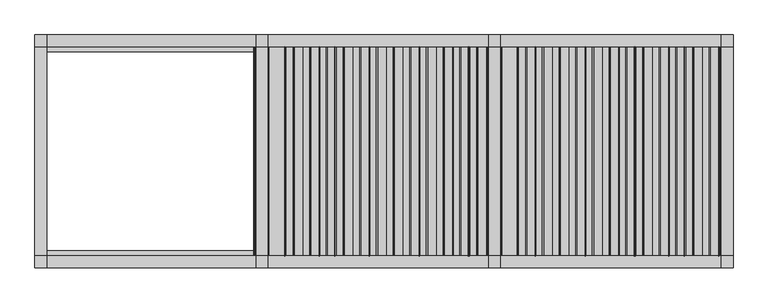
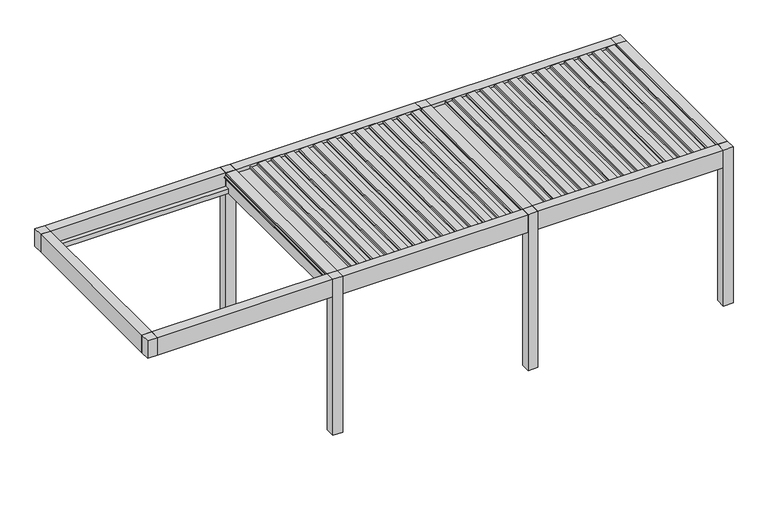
"""IFC4 building model written with IfcOpenShell, lengths in millimetres: proxy geometry, Renson_Amani_Patio_Cover : Renson_Amani_Patio_Cover."""

import ifcopenshell
import ifcopenshell.guid

model = None  # the IFC model being written
_history = None  # IfcOwnerHistory: only IFC2X3 demands one
_inside = {}  # id of a spatial element -> (the spatial element, [elements in it])
_under = {}  # id of a project, library or spatial element -> (it, [spatial elements below it])
_declared = {}  # id of a project -> (the project, [libraries it declares])
_typed = {}  # id of a type object -> (the type object, [elements of that type])
_made_of = {}  # id of a material, layer set ... -> (it, [elements and type objects made of it])


def new_model(schema):
    """Start an empty IFC model of exactly this schema.

    Asked for "IFC4X3", IfcOpenShell would pick the latest addendum, in which some entities
    have other attributes; the version numbers below select the first issue.
    IFC2X3 requires an IfcOwnerHistory on every rooted entity: one is made here for all.
    """
    global model, _history
    if schema == "IFC4X3":
        model = ifcopenshell.file(schema_version=(4, 3, 0, 0))
    else:
        model = ifcopenshell.file(schema=schema)
    _inside.clear()
    _under.clear()
    _declared.clear()
    _typed.clear()
    _made_of.clear()
    _history = None
    if model.schema == "IFC2X3":
        org = make("IfcOrganization", Name="unknown")
        user = make(
            "IfcPersonAndOrganization",
            ThePerson=make("IfcPerson", FamilyName="unknown"),
            TheOrganization=org,
        )
        app = make(
            "IfcApplication",
            ApplicationDeveloper=org,
            Version="unknown",
            ApplicationFullName="unknown",
            ApplicationIdentifier="unknown",
        )
        _history = make(
            "IfcOwnerHistory",
            OwningUser=user,
            OwningApplication=app,
            ChangeAction="ADDED",
            CreationDate=0,
        )
    return model


def make(cls, **values):
    """One entity of the class cls with the attributes given. An attribute that is None is left unset."""
    return model.create_entity(
        cls, **{name: value for name, value in values.items() if value is not None}
    )


def rooted(cls, **values):
    """An entity with a GlobalId (a new one), such as an element, a storey or a relation."""
    return make(cls, GlobalId=ifcopenshell.guid.new(), OwnerHistory=_history, **values)


def si_unit(unit_type, name, prefix=None):
    """IfcSIUnit, for example si_unit("LENGTHUNIT", "METRE", prefix="MILLI")."""
    return make("IfcSIUnit", UnitType=unit_type, Prefix=prefix, Name=name)


def assignment(units):
    """IfcUnitAssignment: the units of a project."""
    return None if units is None else make("IfcUnitAssignment", Units=units)


def point(xyz):
    """IfcCartesianPoint."""
    return None if xyz is None else make("IfcCartesianPoint", Coordinates=xyz)


def direction(xyz):
    """IfcDirection."""
    return None if xyz is None else make("IfcDirection", DirectionRatios=xyz)


def frame(location, z_axis=None, x_axis=None):
    """IfcAxis2Placement3D, a coordinate frame: its origin and axes. An axis left out is left unset."""
    return make(
        "IfcAxis2Placement3D",
        Location=point(location),
        Axis=direction(z_axis),
        RefDirection=direction(x_axis),
    )


def frame_2d(location, x_axis=None):
    """IfcAxis2Placement2D, a coordinate frame in the plane: its origin and x axis."""
    return make(
        "IfcAxis2Placement2D", Location=point(location), RefDirection=direction(x_axis)
    )


def origin():
    """The frame at (0, 0, 0) with its axes left unset."""
    return frame((0.0, 0.0, 0.0))


def origin_with_axes():
    """The frame at (0, 0, 0) with the z axis (0, 0, 1) and the x axis (1, 0, 0) written out."""
    return frame((0.0, 0.0, 0.0), z_axis=(0.0, 0.0, 1.0), x_axis=(1.0, 0.0, 0.0))


def place(relative_to, where):
    """IfcLocalPlacement: puts the frame where relative to a parent placement (None: the world)."""
    return make(
        "IfcLocalPlacement", PlacementRelTo=relative_to, RelativePlacement=where
    )


def context(
    kind, dimensions, precision=None, world=None, true_north=None, identifier=None
):
    """IfcGeometricRepresentationContext, for example the 3D "Model" context."""
    return make(
        "IfcGeometricRepresentationContext",
        ContextIdentifier=identifier,
        ContextType=kind,
        CoordinateSpaceDimension=dimensions,
        Precision=precision,
        WorldCoordinateSystem=world,
        TrueNorth=true_north,
    )


def project(units=None, contexts=None):
    """IfcProject with its units and contexts."""
    return rooted(
        "IfcProject",
        Name="project",
        RepresentationContexts=contexts,
        UnitsInContext=assignment(units),
    )


def spatial(cls, under=None, at=None, **own):
    """A site, building, storey or space (cls), placed at a placement, below another one or the project."""
    s = rooted(cls, ObjectPlacement=at, **own)
    if under is not None:
        _under.setdefault(under.id(), (under, []))[1].append(s)
    return s


def polyline(points):
    """IfcPolyline through the points."""
    return make("IfcPolyline", Points=[point(p) for p in points])


def circle_curve(where, radius):
    """IfcCircle in the frame where."""
    return make("IfcCircle", Position=where, Radius=radius)


def trimmed(basis, trim1, trim2, sense, master):
    """IfcTrimmedCurve: the piece of a basis curve between two trims."""
    return make(
        "IfcTrimmedCurve",
        BasisCurve=basis,
        Trim1=trim1,
        Trim2=trim2,
        SenseAgreement=sense,
        MasterRepresentation=master,
    )


def segment(curve, same_sense, transition):
    """IfcCompositeCurveSegment."""
    return make(
        "IfcCompositeCurveSegment",
        Transition=transition,
        SameSense=same_sense,
        ParentCurve=curve,
    )


def composite_curve(segments, self_intersect=None):
    """IfcCompositeCurve: segments joined end to end."""
    return make("IfcCompositeCurve", Segments=segments, SelfIntersect=self_intersect)


def outline(outer, holes=None, kind="AREA"):
    """IfcArbitraryClosedProfileDef: a profile drawn as a closed curve; with holes, ...WithVoids."""
    if holes is None:
        return make("IfcArbitraryClosedProfileDef", ProfileType=kind, OuterCurve=outer)
    return make(
        "IfcArbitraryProfileDefWithVoids",
        ProfileType=kind,
        OuterCurve=outer,
        InnerCurves=holes,
    )


def extrude(swept, where, along, depth):
    """IfcExtrudedAreaSolid: the profile swept, set in the frame where, extruded along a direction by depth."""
    return make(
        "IfcExtrudedAreaSolid",
        SweptArea=swept,
        Position=where,
        ExtrudedDirection=direction(along),
        Depth=depth,
    )


def shape(context_of_items, identifier, shape_type, items):
    """IfcShapeRepresentation: the items that make up one representation, for example the "Body"."""
    return make(
        "IfcShapeRepresentation",
        ContextOfItems=context_of_items,
        RepresentationIdentifier=identifier,
        RepresentationType=shape_type,
        Items=items,
    )


def source(mapping_origin, context_of_items, identifier, shape_type, items):
    """IfcRepresentationMap: a shape defined once, which mapped items show again and again."""
    return make(
        "IfcRepresentationMap",
        MappingOrigin=mapping_origin,
        MappedRepresentation=shape(context_of_items, identifier, shape_type, items),
    )


def transform(
    local_origin,
    x_axis=None,
    y_axis=None,
    z_axis=None,
    scale=None,
    scale2=None,
    scale3=None,
    uniform=True,
):
    """IfcCartesianTransformationOperator3D, or its non-uniform kind. x_axis, y_axis, z_axis: its Axis1, 2, 3."""
    if uniform:
        return make(
            "IfcCartesianTransformationOperator3D",
            Axis1=direction(x_axis),
            Axis2=direction(y_axis),
            LocalOrigin=point(local_origin),
            Scale=scale,
            Axis3=direction(z_axis),
        )
    return make(
        "IfcCartesianTransformationOperator3DnonUniform",
        Axis1=direction(x_axis),
        Axis2=direction(y_axis),
        LocalOrigin=point(local_origin),
        Scale=scale,
        Axis3=direction(z_axis),
        Scale2=scale2,
        Scale3=scale3,
    )


def mapped(mapping_source, mapping_target):
    """IfcMappedItem: shows the shape of a source again, moved by a transform."""
    return make(
        "IfcMappedItem", MappingSource=mapping_source, MappingTarget=mapping_target
    )


def made_of(thing, what):
    """Note that an element or type object is made of a material, layer set ...; save() writes the relation."""
    if what is not None:
        _made_of.setdefault(what.id(), (what, []))[1].append(thing)
    return thing


def element(
    cls,
    number,
    at=None,
    inside=None,
    cuts=None,
    type_object=None,
    material=None,
    context=None,
    identifier="Body",
    shape_type=None,
    held_by="IfcProductDefinitionShape",
    body=None,
    shapes=None,
    **own,
):
    """One element of the class cls, such as IfcWall. Its Tag is "e" and its number.

    at: its placement. inside: the storey or other place that contains it. cuts: it is an
    opening in that element (IfcRelVoidsElement). A single representation is given by context,
    identifier, shape_type and body (its items); several are given by shapes. held_by: the class
    of the entity that holds the representations. save() writes the other relations.
    """
    e = rooted(cls, Tag="e%d" % number, ObjectPlacement=at, **own)
    if body is not None:
        shapes = [shape(context, identifier, shape_type, body)]
    if shapes is not None:
        e.Representation = make(held_by, Representations=shapes)
    if inside is not None:
        _inside.setdefault(inside.id(), (inside, []))[1].append(e)
    if cuts is not None:
        rooted(
            "IfcRelVoidsElement", RelatingBuildingElement=cuts, RelatedOpeningElement=e
        )
    if type_object is not None:
        _typed.setdefault(type_object.id(), (type_object, []))[1].append(e)
    return made_of(e, material)


def aggregate(whole, parts):
    """IfcRelAggregates: a whole, such as a stair, and the parts it consists of."""
    return rooted("IfcRelAggregates", RelatingObject=whole, RelatedObjects=parts)


def save(model, path):
    """Write the relations noted so far, then the file.

    IfcRelAggregates (storeys below a building ...), IfcRelContainedInSpatialStructure (elements
    in a storey), IfcRelDefinesByType, IfcRelAssociatesMaterial and IfcRelDeclares: one each for
    every whole, place, type object, material and project.
    """
    for whole, parts in _under.values():
        aggregate(whole, parts)
    for where, things in _inside.values():
        rooted(
            "IfcRelContainedInSpatialStructure",
            RelatedElements=things,
            RelatingStructure=where,
        )
    for kind, things in _typed.values():
        rooted("IfcRelDefinesByType", RelatedObjects=things, RelatingType=kind)
    for what, things in _made_of.values():
        rooted("IfcRelAssociatesMaterial", RelatedObjects=things, RelatingMaterial=what)
    for by, libraries in _declared.values():
        rooted("IfcRelDeclares", RelatingContext=by, RelatedDefinitions=libraries)
    model.write(path)


def generic_models_b130cb2a(model_context):
    return source(origin(), model_context, "Body", "SweptSolid", [
        extrude(outline(composite_curve([segment(polyline([(2483.35, 7073.7289238), (2511.01198, 7076.1490335), (2512.3970364, 7104.984284), (2531.8911096, 7101.5469529), (2526.6075693, 6991.549838)]), True, "CONTINUOUS"), segment(trimmed(circle_curve(frame_2d((2511.6248435, 6992.26951)), 15.0), [point((2526.6075693, 6991.549838))], [point((2514.2295662, 6977.4973937))], False, "CARTESIAN"), True, "CONTINUOUS"), segment(polyline([(2514.2295662, 6977.4973937), (2495.0, 6974.1067023), (2495.0, 6886.3709263), (2512.0788237, 6883.3594689), (2511.3450182, 6868.0824984), (2483.35, 6865.6332517), (2483.35, 7073.7289238)]), True, "CONTINUOUS")], self_intersect=False)), frame((0.0, -1350.0, 0.0), z_axis=(0.0, 1.0, 0.0), x_axis=(0.0, 0.0, 1.0)), (0.0, 0.0, 1.0), 2700.0),
        extrude(outline(composite_curve([segment(polyline([(2483.35, 6858.7132078), (2511.01198, 6861.1333174), (2512.3970364, 6889.9685679), (2531.8911096, 6886.5312368), (2526.6075693, 6776.534122)]), True, "CONTINUOUS"), segment(trimmed(circle_curve(frame_2d((2511.6248435, 6777.2537939)), 15.0), [point((2526.6075693, 6776.534122))], [point((2514.2295662, 6762.4816776))], False, "CARTESIAN"), True, "CONTINUOUS"), segment(polyline([(2514.2295662, 6762.4816776), (2495.0, 6759.0909863), (2495.0, 6671.3552102), (2512.0788237, 6668.3437528), (2511.3450182, 6653.0667824), (2483.35, 6650.6175356), (2483.35, 6858.7132078)]), True, "CONTINUOUS")], self_intersect=False)), frame((0.0, -1350.0, 0.0), z_axis=(0.0, 1.0, 0.0), x_axis=(0.0, 0.0, 1.0)), (0.0, 0.0, 1.0), 2700.0),
        extrude(outline(composite_curve([segment(polyline([(2483.35, 6643.6974917), (2511.01198, 6646.1176014), (2512.3970364, 6674.9528519), (2531.8911096, 6671.5155208), (2526.6075693, 6561.5184059)]), True, "CONTINUOUS"), segment(trimmed(circle_curve(frame_2d((2511.6248435, 6562.2380779)), 15.0), [point((2526.6075693, 6561.5184059))], [point((2514.2295662, 6547.4659616))], False, "CARTESIAN"), True, "CONTINUOUS"), segment(polyline([(2514.2295662, 6547.4659616), (2495.0, 6544.0752702), (2495.0, 6456.3394942), (2512.0788237, 6453.3280368), (2511.3450182, 6438.0510663), (2483.35, 6435.6018196), (2483.35, 6643.6974917)]), True, "CONTINUOUS")], self_intersect=False)), frame((0.0, -1350.0, 0.0), z_axis=(0.0, 1.0, 0.0), x_axis=(0.0, 0.0, 1.0)), (0.0, 0.0, 1.0), 2700.0),
        extrude(outline(composite_curve([segment(polyline([(2483.35, 6428.6817757), (2511.01198, 6431.1018854), (2512.3970364, 6459.9371358), (2531.8911096, 6456.4998047), (2526.6075693, 6346.5026899)]), True, "CONTINUOUS"), segment(trimmed(circle_curve(frame_2d((2511.6248435, 6347.2223618)), 15.0), [point((2526.6075693, 6346.5026899))], [point((2514.2295662, 6332.4502455))], False, "CARTESIAN"), True, "CONTINUOUS"), segment(polyline([(2514.2295662, 6332.4502455), (2495.0, 6329.0595542), (2495.0, 6241.3237782), (2512.0788237, 6238.3123207), (2511.3450182, 6223.0353503), (2483.35, 6220.5861035), (2483.35, 6428.6817757)]), True, "CONTINUOUS")], self_intersect=False)), frame((0.0, -1350.0, 0.0), z_axis=(0.0, 1.0, 0.0), x_axis=(0.0, 0.0, 1.0)), (0.0, 0.0, 1.0), 2700.0),
        extrude(outline(composite_curve([segment(polyline([(2483.35, 6213.6660597), (2511.01198, 6216.0861693), (2512.3970364, 6244.9214198), (2531.8911096, 6241.4840887), (2526.6075693, 6131.4869738)]), True, "CONTINUOUS"), segment(trimmed(circle_curve(frame_2d((2511.6248435, 6132.2066458)), 15.0), [point((2526.6075693, 6131.4869738))], [point((2514.2295662, 6117.4345295))], False, "CARTESIAN"), True, "CONTINUOUS"), segment(polyline([(2514.2295662, 6117.4345295), (2495.0, 6114.0438381), (2495.0, 6026.3080621), (2512.0788237, 6023.2966047), (2511.3450182, 6008.0196342), (2483.35, 6005.5703875), (2483.35, 6213.6660597)]), True, "CONTINUOUS")], self_intersect=False)), frame((0.0, -1350.0, 0.0), z_axis=(0.0, 1.0, 0.0), x_axis=(0.0, 0.0, 1.0)), (0.0, 0.0, 1.0), 2700.0),
        extrude(outline(composite_curve([segment(polyline([(2483.35, 5998.6503436), (2511.01198, 6001.0704533), (2512.3970364, 6029.9057037), (2531.8911096, 6026.4683726), (2526.6075693, 5916.4712578)]), True, "CONTINUOUS"), segment(trimmed(circle_curve(frame_2d((2511.6248435, 5917.1909297)), 15.0), [point((2526.6075693, 5916.4712578))], [point((2514.2295662, 5902.4188134))], False, "CARTESIAN"), True, "CONTINUOUS"), segment(polyline([(2514.2295662, 5902.4188134), (2495.0, 5899.0281221), (2495.0, 5811.2923461), (2512.0788237, 5808.2808886), (2511.3450182, 5793.0039182), (2483.35, 5790.5546714), (2483.35, 5998.6503436)]), True, "CONTINUOUS")], self_intersect=False)), frame((0.0, -1350.0, 0.0), z_axis=(0.0, 1.0, 0.0), x_axis=(0.0, 0.0, 1.0)), (0.0, 0.0, 1.0), 2700.0),
        extrude(outline(composite_curve([segment(polyline([(2483.35, 5783.6346276), (2511.01198, 5786.0547372), (2512.3970364, 5814.8899877), (2531.8911096, 5811.4526566), (2526.6075693, 5701.4555418)]), True, "CONTINUOUS"), segment(trimmed(circle_curve(frame_2d((2511.6248435, 5702.1752137)), 15.0), [point((2526.6075693, 5701.4555418))], [point((2514.2295662, 5687.4030974))], False, "CARTESIAN"), True, "CONTINUOUS"), segment(polyline([(2514.2295662, 5687.4030974), (2495.0, 5684.012406), (2495.0, 5596.27663), (2512.0788237, 5593.2651726), (2511.3450182, 5577.9882021), (2483.35, 5575.5389554), (2483.35, 5783.6346276)]), True, "CONTINUOUS")], self_intersect=False)), frame((0.0, -1350.0, 0.0), z_axis=(0.0, 1.0, 0.0), x_axis=(0.0, 0.0, 1.0)), (0.0, 0.0, 1.0), 2700.0),
        extrude(outline(composite_curve([segment(polyline([(2483.35, 5568.6189115), (2511.01198, 5571.0390212), (2512.3970364, 5599.8742716), (2531.8911096, 5596.4369406), (2526.6075693, 5486.4398257)]), True, "CONTINUOUS"), segment(trimmed(circle_curve(frame_2d((2511.6248435, 5487.1594976)), 15.0), [point((2526.6075693, 5486.4398257))], [point((2514.2295662, 5472.3873813))], False, "CARTESIAN"), True, "CONTINUOUS"), segment(polyline([(2514.2295662, 5472.3873813), (2495.0, 5468.99669), (2495.0, 5381.260914), (2512.0788237, 5378.2494566), (2511.3450182, 5362.9724861), (2483.35, 5360.5232394), (2483.35, 5568.6189115)]), True, "CONTINUOUS")], self_intersect=False)), frame((0.0, -1350.0, 0.0), z_axis=(0.0, 1.0, 0.0), x_axis=(0.0, 0.0, 1.0)), (0.0, 0.0, 1.0), 2700.0),
        extrude(outline(composite_curve([segment(polyline([(2483.35, 5353.6031955), (2511.01198, 5356.0233051), (2512.3970364, 5384.8585556), (2531.8911096, 5381.4212245), (2526.6075693, 5271.4241097)]), True, "CONTINUOUS"), segment(trimmed(circle_curve(frame_2d((2511.6248435, 5272.1437816)), 15.0), [point((2526.6075693, 5271.4241097))], [point((2514.2295662, 5257.3716653))], False, "CARTESIAN"), True, "CONTINUOUS"), segment(polyline([(2514.2295662, 5257.3716653), (2495.0, 5253.980974), (2495.0, 5166.2451979), (2512.0788237, 5163.2337405), (2511.3450182, 5147.95677), (2483.35, 5145.5075233), (2483.35, 5353.6031955)]), True, "CONTINUOUS")], self_intersect=False)), frame((0.0, -1350.0, 0.0), z_axis=(0.0, 1.0, 0.0), x_axis=(0.0, 0.0, 1.0)), (0.0, 0.0, 1.0), 2700.0),
        extrude(outline(composite_curve([segment(polyline([(2483.35, 5138.5874794), (2511.01198, 5141.0075891), (2512.3970364, 5169.8428395), (2531.8911096, 5166.4055085), (2526.6075693, 5056.4083936)]), True, "CONTINUOUS"), segment(trimmed(circle_curve(frame_2d((2511.6248435, 5057.1280655)), 15.0), [point((2526.6075693, 5056.4083936))], [point((2514.2295662, 5042.3559492))], False, "CARTESIAN"), True, "CONTINUOUS"), segment(polyline([(2514.2295662, 5042.3559492), (2495.0, 5038.9652579), (2495.0, 4951.2294819), (2512.0788237, 4948.2180245), (2511.3450182, 4932.941054), (2483.35, 4930.4918073), (2483.35, 5138.5874794)]), True, "CONTINUOUS")], self_intersect=False)), frame((0.0, -1350.0, 0.0), z_axis=(0.0, 1.0, 0.0), x_axis=(0.0, 0.0, 1.0)), (0.0, 0.0, 1.0), 2700.0),
        extrude(outline(composite_curve([segment(polyline([(2483.35, 7288.7446399), (2511.01198, 7291.1647495), (2512.3970364, 7320.0), (2531.8911096, 7316.5626689), (2526.6075693, 7206.5655541)]), True, "CONTINUOUS"), segment(trimmed(circle_curve(frame_2d((2511.6248435, 7207.285226)), 15.0), [point((2526.6075693, 7206.5655541))], [point((2514.2295662, 7192.5131097))], False, "CARTESIAN"), True, "CONTINUOUS"), segment(polyline([(2514.2295662, 7192.5131097), (2495.0, 7189.1224184), (2495.0, 7101.3866423), (2512.0788237, 7098.3751849), (2511.3450182, 7083.0982144), (2483.35, 7080.6489677), (2483.35, 7288.7446399)]), True, "CONTINUOUS")], self_intersect=False)), frame((0.0, -1350.0, 0.0), z_axis=(0.0, 1.0, 0.0), x_axis=(0.0, 0.0, 1.0)), (0.0, 0.0, 1.0), 2700.0),
        extrude(outline(composite_curve([segment(polyline([(2483.35, 4923.5717634), (2511.01198, 4925.991873), (2512.3970364, 4954.8271235), (2531.8911096, 4951.3897924), (2526.6075693, 4841.3926776)]), True, "CONTINUOUS"), segment(trimmed(circle_curve(frame_2d((2511.6248435, 4842.1123495)), 15.0), [point((2526.6075693, 4841.3926776))], [point((2514.2295662, 4827.3402332))], False, "CARTESIAN"), True, "CONTINUOUS"), segment(polyline([(2514.2295662, 4827.3402332), (2495.0, 4823.9495419), (2495.0, 4736.2137658), (2512.0788237, 4733.2023084), (2511.3450182, 4717.9253379), (2483.35, 4715.4760912), (2483.35, 4923.5717634)]), True, "CONTINUOUS")], self_intersect=False)), frame((0.0, -1350.0, 0.0), z_axis=(0.0, 1.0, 0.0), x_axis=(0.0, 0.0, 1.0)), (0.0, 0.0, 1.0), 2700.0),
        extrude(outline(composite_curve([segment(polyline([(2483.35, 4073.7289238), (2511.01198, 4076.1490335), (2512.3970364, 4104.984284), (2531.8911096, 4101.5469529), (2526.6075693, 3991.549838)]), True, "CONTINUOUS"), segment(trimmed(circle_curve(frame_2d((2511.6248435, 3992.26951)), 15.0), [point((2526.6075693, 3991.549838))], [point((2514.2295662, 3977.4973937))], False, "CARTESIAN"), True, "CONTINUOUS"), segment(polyline([(2514.2295662, 3977.4973937), (2495.0, 3974.1067023), (2495.0, 3886.3709263), (2512.0788237, 3883.3594689), (2511.3450182, 3868.0824984), (2483.35, 3865.6332517), (2483.35, 4073.7289238)]), True, "CONTINUOUS")], self_intersect=False)), frame((0.0, -1350.0, 0.0), z_axis=(0.0, 1.0, 0.0), x_axis=(0.0, 0.0, 1.0)), (0.0, 0.0, 1.0), 2700.0),
        extrude(outline(composite_curve([segment(polyline([(2483.35, 3858.7132078), (2511.01198, 3861.1333174), (2512.3970364, 3889.9685679), (2531.8911096, 3886.5312368), (2526.6075693, 3776.534122)]), True, "CONTINUOUS"), segment(trimmed(circle_curve(frame_2d((2511.6248435, 3777.2537939)), 15.0), [point((2526.6075693, 3776.534122))], [point((2514.2295662, 3762.4816776))], False, "CARTESIAN"), True, "CONTINUOUS"), segment(polyline([(2514.2295662, 3762.4816776), (2495.0, 3759.0909863), (2495.0, 3671.3552102), (2512.0788237, 3668.3437528), (2511.3450182, 3653.0667824), (2483.35, 3650.6175356), (2483.35, 3858.7132078)]), True, "CONTINUOUS")], self_intersect=False)), frame((0.0, -1350.0, 0.0), z_axis=(0.0, 1.0, 0.0), x_axis=(0.0, 0.0, 1.0)), (0.0, 0.0, 1.0), 2700.0),
        extrude(outline(composite_curve([segment(polyline([(2483.35, 3643.6974917), (2511.01198, 3646.1176014), (2512.3970364, 3674.9528519), (2531.8911096, 3671.5155208), (2526.6075693, 3561.5184059)]), True, "CONTINUOUS"), segment(trimmed(circle_curve(frame_2d((2511.6248435, 3562.2380779)), 15.0), [point((2526.6075693, 3561.5184059))], [point((2514.2295662, 3547.4659616))], False, "CARTESIAN"), True, "CONTINUOUS"), segment(polyline([(2514.2295662, 3547.4659616), (2495.0, 3544.0752702), (2495.0, 3456.3394942), (2512.0788237, 3453.3280368), (2511.3450182, 3438.0510663), (2483.35, 3435.6018196), (2483.35, 3643.6974917)]), True, "CONTINUOUS")], self_intersect=False)), frame((0.0, -1350.0, 0.0), z_axis=(0.0, 1.0, 0.0), x_axis=(0.0, 0.0, 1.0)), (0.0, 0.0, 1.0), 2700.0),
        extrude(outline(composite_curve([segment(polyline([(2483.35, 3428.6817757), (2511.01198, 3431.1018854), (2512.3970364, 3459.9371358), (2531.8911096, 3456.4998047), (2526.6075693, 3346.5026899)]), True, "CONTINUOUS"), segment(trimmed(circle_curve(frame_2d((2511.6248435, 3347.2223618)), 15.0), [point((2526.6075693, 3346.5026899))], [point((2514.2295662, 3332.4502455))], False, "CARTESIAN"), True, "CONTINUOUS"), segment(polyline([(2514.2295662, 3332.4502455), (2495.0, 3329.0595542), (2495.0, 3241.3237782), (2512.0788237, 3238.3123207), (2511.3450182, 3223.0353503), (2483.35, 3220.5861035), (2483.35, 3428.6817757)]), True, "CONTINUOUS")], self_intersect=False)), frame((0.0, -1350.0, 0.0), z_axis=(0.0, 1.0, 0.0), x_axis=(0.0, 0.0, 1.0)), (0.0, 0.0, 1.0), 2700.0),
        extrude(outline(composite_curve([segment(polyline([(2483.35, 3213.6660597), (2511.01198, 3216.0861693), (2512.3970364, 3244.9214198), (2531.8911096, 3241.4840887), (2526.6075693, 3131.4869738)]), True, "CONTINUOUS"), segment(trimmed(circle_curve(frame_2d((2511.6248435, 3132.2066458)), 15.0), [point((2526.6075693, 3131.4869738))], [point((2514.2295662, 3117.4345295))], False, "CARTESIAN"), True, "CONTINUOUS"), segment(polyline([(2514.2295662, 3117.4345295), (2495.0, 3114.0438381), (2495.0, 3026.3080621), (2512.0788237, 3023.2966047), (2511.3450182, 3008.0196342), (2483.35, 3005.5703875), (2483.35, 3213.6660597)]), True, "CONTINUOUS")], self_intersect=False)), frame((0.0, -1350.0, 0.0), z_axis=(0.0, 1.0, 0.0), x_axis=(0.0, 0.0, 1.0)), (0.0, 0.0, 1.0), 2700.0),
        extrude(outline(composite_curve([segment(polyline([(2483.35, 2998.6503436), (2511.01198, 3001.0704533), (2512.3970364, 3029.9057037), (2531.8911096, 3026.4683726), (2526.6075693, 2916.4712578)]), True, "CONTINUOUS"), segment(trimmed(circle_curve(frame_2d((2511.6248435, 2917.1909297)), 15.0), [point((2526.6075693, 2916.4712578))], [point((2514.2295662, 2902.4188134))], False, "CARTESIAN"), True, "CONTINUOUS"), segment(polyline([(2514.2295662, 2902.4188134), (2495.0, 2899.0281221), (2495.0, 2811.2923461), (2512.0788237, 2808.2808886), (2511.3450182, 2793.0039182), (2483.35, 2790.5546714), (2483.35, 2998.6503436)]), True, "CONTINUOUS")], self_intersect=False)), frame((0.0, -1350.0, 0.0), z_axis=(0.0, 1.0, 0.0), x_axis=(0.0, 0.0, 1.0)), (0.0, 0.0, 1.0), 2700.0),
        extrude(outline(composite_curve([segment(polyline([(2483.35, 2783.6346276), (2511.01198, 2786.0547372), (2512.3970364, 2814.8899877), (2531.8911096, 2811.4526566), (2526.6075693, 2701.4555418)]), True, "CONTINUOUS"), segment(trimmed(circle_curve(frame_2d((2511.6248435, 2702.1752137)), 15.0), [point((2526.6075693, 2701.4555418))], [point((2514.2295662, 2687.4030974))], False, "CARTESIAN"), True, "CONTINUOUS"), segment(polyline([(2514.2295662, 2687.4030974), (2495.0, 2684.012406), (2495.0, 2596.27663), (2512.0788237, 2593.2651726), (2511.3450182, 2577.9882021), (2483.35, 2575.5389554), (2483.35, 2783.6346276)]), True, "CONTINUOUS")], self_intersect=False)), frame((0.0, -1350.0, 0.0), z_axis=(0.0, 1.0, 0.0), x_axis=(0.0, 0.0, 1.0)), (0.0, 0.0, 1.0), 2700.0),
        extrude(outline(composite_curve([segment(polyline([(2483.35, 2568.6189115), (2511.01198, 2571.0390212), (2512.3970364, 2599.8742716), (2531.8911096, 2596.4369406), (2526.6075693, 2486.4398257)]), True, "CONTINUOUS"), segment(trimmed(circle_curve(frame_2d((2511.6248435, 2487.1594976)), 15.0), [point((2526.6075693, 2486.4398257))], [point((2514.2295662, 2472.3873813))], False, "CARTESIAN"), True, "CONTINUOUS"), segment(polyline([(2514.2295662, 2472.3873813), (2495.0, 2468.99669), (2495.0, 2381.260914), (2512.0788237, 2378.2494566), (2511.3450182, 2362.9724861), (2483.35, 2360.5232394), (2483.35, 2568.6189115)]), True, "CONTINUOUS")], self_intersect=False)), frame((0.0, -1350.0, 0.0), z_axis=(0.0, 1.0, 0.0), x_axis=(0.0, 0.0, 1.0)), (0.0, 0.0, 1.0), 2700.0),
        extrude(outline(composite_curve([segment(polyline([(2483.35, 2353.6031955), (2511.01198, 2356.0233051), (2512.3970364, 2384.8585556), (2531.8911096, 2381.4212245), (2526.6075693, 2271.4241097)]), True, "CONTINUOUS"), segment(trimmed(circle_curve(frame_2d((2511.6248435, 2272.1437816)), 15.0), [point((2526.6075693, 2271.4241097))], [point((2514.2295662, 2257.3716653))], False, "CARTESIAN"), True, "CONTINUOUS"), segment(polyline([(2514.2295662, 2257.3716653), (2495.0, 2253.980974), (2495.0, 2166.2451979), (2512.0788237, 2163.2337405), (2511.3450182, 2147.95677), (2483.35, 2145.5075233), (2483.35, 2353.6031955)]), True, "CONTINUOUS")], self_intersect=False)), frame((0.0, -1350.0, 0.0), z_axis=(0.0, 1.0, 0.0), x_axis=(0.0, 0.0, 1.0)), (0.0, 0.0, 1.0), 2700.0),
        extrude(outline(composite_curve([segment(polyline([(2483.35, 2138.5874794), (2511.01198, 2141.0075891), (2512.3970364, 2169.8428395), (2531.8911096, 2166.4055085), (2526.6075693, 2056.4083936)]), True, "CONTINUOUS"), segment(trimmed(circle_curve(frame_2d((2511.6248435, 2057.1280655)), 15.0), [point((2526.6075693, 2056.4083936))], [point((2514.2295662, 2042.3559492))], False, "CARTESIAN"), True, "CONTINUOUS"), segment(polyline([(2514.2295662, 2042.3559492), (2495.0, 2038.9652579), (2495.0, 1951.2294819), (2512.0788237, 1948.2180245), (2511.3450182, 1932.941054), (2483.35, 1930.4918073), (2483.35, 2138.5874794)]), True, "CONTINUOUS")], self_intersect=False)), frame((0.0, -1350.0, 0.0), z_axis=(0.0, 1.0, 0.0), x_axis=(0.0, 0.0, 1.0)), (0.0, 0.0, 1.0), 2700.0),
        extrude(outline(composite_curve([segment(polyline([(2483.35, 4288.7446399), (2511.01198, 4291.1647495), (2512.3970364, 4320.0), (2531.8911096, 4316.5626689), (2526.6075693, 4206.5655541)]), True, "CONTINUOUS"), segment(trimmed(circle_curve(frame_2d((2511.6248435, 4207.285226)), 15.0), [point((2526.6075693, 4206.5655541))], [point((2514.2295662, 4192.5131097))], False, "CARTESIAN"), True, "CONTINUOUS"), segment(polyline([(2514.2295662, 4192.5131097), (2495.0, 4189.1224184), (2495.0, 4101.3866423), (2512.0788237, 4098.3751849), (2511.3450182, 4083.0982144), (2483.35, 4080.6489677), (2483.35, 4288.7446399)]), True, "CONTINUOUS")], self_intersect=False)), frame((0.0, -1350.0, 0.0), z_axis=(0.0, 1.0, 0.0), x_axis=(0.0, 0.0, 1.0)), (0.0, 0.0, 1.0), 2700.0),
        extrude(outline(composite_curve([segment(polyline([(2483.35, 1923.5717634), (2511.01198, 1925.991873), (2512.3970364, 1954.8271235), (2531.8911096, 1951.3897924), (2526.6075693, 1841.3926776)]), True, "CONTINUOUS"), segment(trimmed(circle_curve(frame_2d((2511.6248435, 1842.1123495)), 15.0), [point((2526.6075693, 1841.3926776))], [point((2514.2295662, 1827.3402332))], False, "CARTESIAN"), True, "CONTINUOUS"), segment(polyline([(2514.2295662, 1827.3402332), (2495.0, 1823.9495419), (2495.0, 1736.2137658), (2512.0788237, 1733.2023084), (2511.3450182, 1717.9253379), (2483.35, 1715.4760912), (2483.35, 1923.5717634)]), True, "CONTINUOUS")], self_intersect=False)), frame((0.0, -1350.0, 0.0), z_axis=(0.0, 1.0, 0.0), x_axis=(0.0, 0.0, 1.0)), (0.0, 0.0, 1.0), 2700.0),
        extrude(outline(polyline([(7500.0, -1350.0), (7500.0, -1500.0), (7350.0, -1500.0), (7350.0, -1350.0), (7500.0, -1350.0)])), origin_with_axes(), (0.0, 0.0, 1.0), 2535.0),
        extrude(outline(polyline([(7500.0, 1500.0), (7500.0, 1350.0), (7350.0, 1350.0), (7350.0, 1500.0), (7500.0, 1500.0)])), origin_with_axes(), (0.0, 0.0, 1.0), 2535.0),
        extrude(outline(polyline([(4500.0, 1500.0), (4500.0, 1350.0), (4350.0, 1350.0), (4350.0, 1500.0), (4500.0, 1500.0)])), origin_with_axes(), (0.0, 0.0, 1.0), 2535.0),
        extrude(outline(polyline([(-1350.0, 1500.0), (-1350.0, 1350.0), (-1500.0, 1350.0), (-1500.0, 1500.0), (-1350.0, 1500.0)])), frame((0.0, 0.0, 2250.0), z_axis=(0.0, 0.0, 1.0), x_axis=(1.0, 0.0, 0.0)), (0.0, 0.0, 1.0), 285.0),
        extrude(outline(polyline([(-1350.0, -1500.0), (-1500.0, -1500.0), (-1500.0, -1350.0), (-1350.0, -1350.0), (-1350.0, -1500.0)])), frame((0.0, 0.0, 2250.0), z_axis=(0.0, 0.0, 1.0), x_axis=(1.0, 0.0, 0.0)), (0.0, 0.0, 1.0), 285.0),
        extrude(outline(polyline([(4500.0, -1350.0), (4500.0, -1500.0), (4350.0, -1500.0), (4350.0, -1350.0), (4500.0, -1350.0)])), origin_with_axes(), (0.0, 0.0, 1.0), 2535.0),
        extrude(outline(polyline([(1500.0, -1350.0), (1500.0, -1500.0), (1350.0, -1500.0), (1350.0, -1350.0), (1500.0, -1350.0)])), origin_with_axes(), (0.0, 0.0, 1.0), 2535.0),
        extrude(outline(polyline([(1500.0, 1500.0), (1500.0, 1350.0), (1350.0, 1350.0), (1350.0, 1500.0), (1500.0, 1500.0)])), origin_with_axes(), (0.0, 0.0, 1.0), 2535.0),
        extrude(outline(polyline([(2466.6559373, 4500.0), (2466.6559373, 4710.0), (2480.6555802, 4713.7512887), (2480.6555802, 4520.4059055), (2496.400763, 4505.0), (2504.2449277, 4505.0), (2504.6823598, 4500.0), (2466.6559373, 4500.0)])), frame((0.0, -1350.0, 0.0), z_axis=(0.0, 1.0, 0.0), x_axis=(0.0, 0.0, 1.0)), (0.0, 0.0, 1.0), 2700.0),
        extrude(outline(polyline([(-1350.0, 2535.0), (-1350.0, 2322.0), (-1280.0000001, 2322.0), (-1280.0000001, 2250.0), (-1500.0, 2250.0), (-1500.0, 2535.0), (-1350.0, 2535.0)])), frame((4500.0, 0.0, 0.0), z_axis=(1.0, 0.0, 0.0), x_axis=(0.0, 1.0, 0.0)), (0.0, 0.0, 1.0), 2850.0),
        extrude(outline(polyline([(1500.0, 2250.0), (1280.0000001, 2250.0), (1280.0000001, 2322.0), (1350.0, 2322.0), (1350.0, 2535.0), (1500.0, 2535.0), (1500.0, 2250.0)])), frame((4500.0, 0.0, 0.0), z_axis=(1.0, 0.0, 0.0), x_axis=(0.0, 1.0, 0.0)), (0.0, 0.0, 1.0), 2850.0),
        extrude(outline(polyline([(2535.0, 7500.0), (2535.0, 7350.0), (2504.6823598, 7350.0), (2504.2449277, 7345.0), (2496.400763, 7345.0), (2480.6555802, 7329.2544156), (2480.6555802, 7319.9090324), (2466.6559373, 7323.6603211), (2466.6559373, 7350.0), (2250.0, 7350.0), (2250.0, 7500.0), (2535.0, 7500.0)])), frame((0.0, -1350.0, 0.0), z_axis=(0.0, 1.0, 0.0), x_axis=(0.0, 0.0, 1.0)), (0.0, 0.0, 1.0), 2700.0),
        extrude(outline(polyline([(2466.6559373, 1500.0), (2466.6559373, 1710.0), (2480.6555802, 1713.7512887), (2480.6555802, 1520.4059055), (2496.400763, 1505.0), (2504.2449277, 1505.0), (2504.6823598, 1500.0), (2466.6559373, 1500.0)])), frame((0.0, -1350.0, 0.0), z_axis=(0.0, 1.0, 0.0), x_axis=(0.0, 0.0, 1.0)), (0.0, 0.0, 1.0), 2700.0),
        extrude(outline(polyline([(-1350.0, 2535.0), (-1350.0, 2322.0), (-1280.0000001, 2322.0), (-1280.0000001, 2250.0), (-1500.0, 2250.0), (-1500.0, 2535.0), (-1350.0, 2535.0)])), frame((1500.0, 0.0, 0.0), z_axis=(1.0, 0.0, 0.0), x_axis=(0.0, 1.0, 0.0)), (0.0, 0.0, 1.0), 2850.0),
        extrude(outline(polyline([(1500.0, 2250.0), (1280.0000001, 2250.0), (1280.0000001, 2322.0), (1350.0, 2322.0), (1350.0, 2535.0), (1500.0, 2535.0), (1500.0, 2250.0)])), frame((1500.0, 0.0, 0.0), z_axis=(1.0, 0.0, 0.0), x_axis=(0.0, 1.0, 0.0)), (0.0, 0.0, 1.0), 2850.0),
        extrude(outline(polyline([(2535.0, 4500.0), (2535.0, 4350.0), (2504.6823598, 4350.0), (2504.2449277, 4345.0), (2496.400763, 4345.0), (2480.6555802, 4329.2544156), (2480.6555802, 4319.9090324), (2466.6559373, 4323.6603211), (2466.6559373, 4350.0), (2250.0, 4350.0), (2250.0, 4500.0), (2535.0, 4500.0)])), frame((0.0, -1350.0, 0.0), z_axis=(0.0, 1.0, 0.0), x_axis=(0.0, 0.0, 1.0)), (0.0, 0.0, 1.0), 2700.0),
        extrude(outline(polyline([(-1350.0, -1350.0), (-1500.0, -1350.0), (-1500.0, 1350.0), (-1350.0, 1350.0), (-1350.0, -1350.0)])), frame((0.0, 0.0, 2250.0), z_axis=(0.0, 0.0, 1.0), x_axis=(1.0, 0.0, 0.0)), (0.0, 0.0, 1.0), 285.0),
        extrude(outline(polyline([(2535.0, 1500.0), (2535.0, 1350.0), (2504.6904658, 1350.0), (2504.2449277, 1345.0), (2496.400763, 1345.0), (2480.6555802, 1329.2544156), (2480.6555802, 1319.9090324), (2466.6559373, 1323.6603211), (2466.6559373, 1350.0), (2250.0, 1350.0), (2250.0, 1500.0), (2535.0, 1500.0)])), frame((0.0, -1350.0, 0.0), z_axis=(0.0, 1.0, 0.0), x_axis=(0.0, 0.0, 1.0)), (0.0, 0.0, 1.0), 2700.0),
        extrude(outline(polyline([(-1350.0, 2535.0), (-1350.0, 2322.0), (-1280.0000001, 2322.0), (-1280.0000001, 2250.0), (-1500.0, 2250.0), (-1500.0, 2535.0), (-1350.0, 2535.0)])), frame((-1350.0, 0.0, 0.0), z_axis=(1.0, 0.0, 0.0), x_axis=(0.0, 1.0, 0.0)), (0.0, 0.0, 1.0), 2700.0),
        extrude(outline(polyline([(1500.0, 2250.0), (1280.0000001, 2250.0), (1280.0000001, 2322.0), (1350.0, 2322.0), (1350.0, 2535.0), (1500.0, 2535.0), (1500.0, 2250.0)])), frame((-1350.0, 0.0, 0.0), z_axis=(1.0, 0.0, 0.0), x_axis=(0.0, 1.0, 0.0)), (0.0, 0.0, 1.0), 2700.0),
    ])


if __name__ == "__main__":
    model = new_model("IFC4")
    model_context = context("Model", 3, world=origin())
    ifc_project = project(units=[si_unit("LENGTHUNIT", "METRE", prefix="MILLI")], contexts=[model_context])
    site = spatial("IfcSite", under=ifc_project)
    building = spatial("IfcBuilding", under=site)
    placement = place(None, origin())
    generic_models_shape = generic_models_b130cb2a(model_context)
    element("IfcBuildingElementProxy", 1, Name="Renson_Amani_Patio_Cover : Renson_Amani_Patio_Cover", ObjectType="Renson_Amani_Patio_Cover : Renson_Amani_Patio_Cover", at=placement, inside=building, context=model_context, shape_type="MappedRepresentation", body=[
        mapped(generic_models_shape, transform((0.0, 0.0, 0.0), x_axis=(1.0, 0.0, 0.0), y_axis=(0.0, 1.0, 0.0), z_axis=(0.0, 0.0, 1.0))),
    ])
    save(model, "model.ifc")
